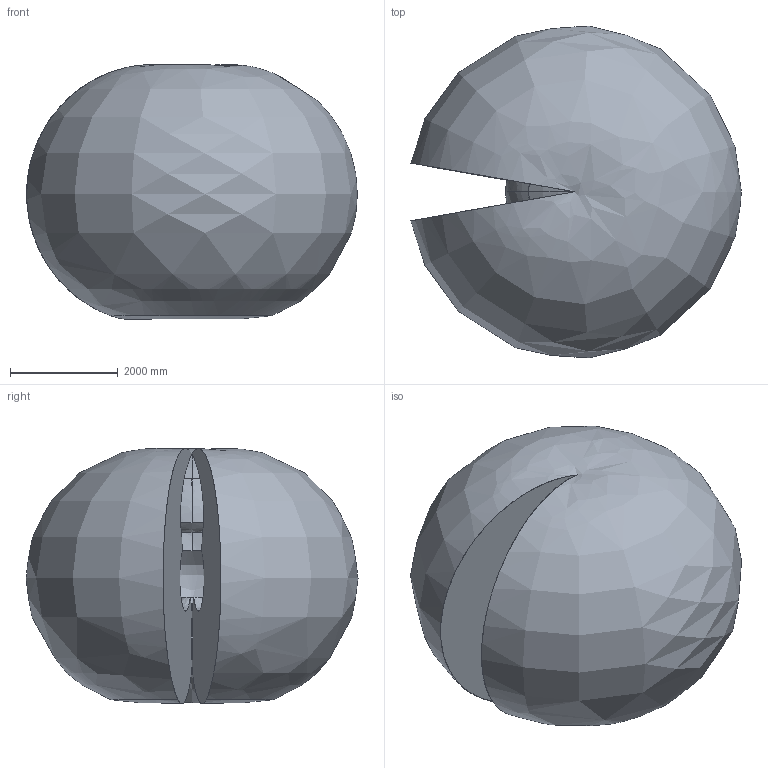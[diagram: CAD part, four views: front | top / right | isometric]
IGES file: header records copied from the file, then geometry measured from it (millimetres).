
Start section: SolidWorks IGES file using analytic representation for surfaces
Global section: file name: C:\DATA\SAP_DOC\LW\IRB 6730S\IRB6730S-MH3_270kg-310_OC_01_SW_J\export\IRB6730S-MH3_270kg-310_OC_01_IGES_J\IRB6730S-MH3_270kg-310_OC_00_Working-envelope.igs; native system: SolidWorks 2024; preprocessor: SolidWorks 2024; author: SEJOVAS3; date: 260526.131524; units: millimetre
Bounding box: 6151.14 x 6175 x 4745.51 mm (x, y, z)
Surface area: 142909358.7 mm2 (no closed solid volume)
Topology: 0 solids, 0 shells, 22 faces, 496 edges, 484 vertices
Faces by surface type: bspline 20, revolution 2
